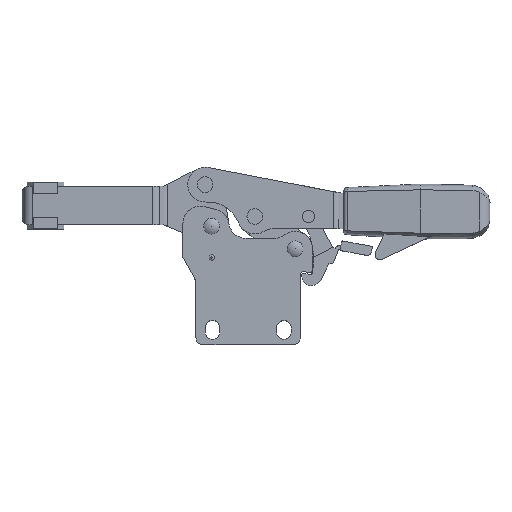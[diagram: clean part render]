
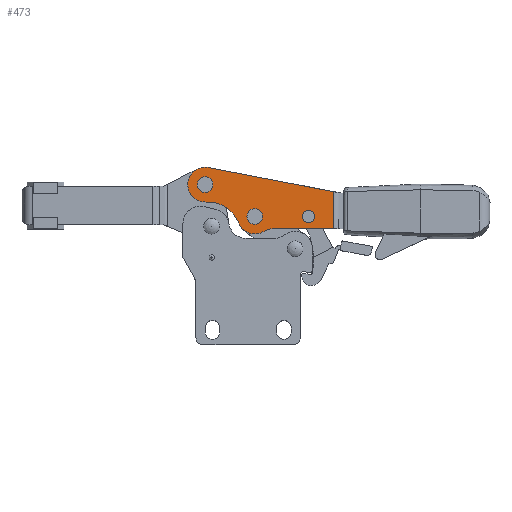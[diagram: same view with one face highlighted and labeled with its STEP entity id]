
A CAD part, top view. The second image highlights one B-rep face of the part: STEP entity #473.
In plain terms, the highlighted planar face has unit normal (0, 0, 1).
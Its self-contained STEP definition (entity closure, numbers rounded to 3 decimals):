
#473 = ADVANCED_FACE( '', ( #914, #915, #916, #917 ), #918, .T. );
#914 = FACE_OUTER_BOUND( '', #1584, .T. );
#915 = FACE_BOUND( '', #1585, .T. );
#916 = FACE_BOUND( '', #1586, .T. );
#917 = FACE_BOUND( '', #1587, .T. );
#918 = PLANE( '', #1588 );
#1584 = EDGE_LOOP( '', ( #2980, #2981, #2982, #2983, #2984, #2985, #2986 ) );
#1585 = EDGE_LOOP( '', ( #2987 ) );
#1586 = EDGE_LOOP( '', ( #2988 ) );
#1587 = EDGE_LOOP( '', ( #2989 ) );
#1588 = AXIS2_PLACEMENT_3D( '', #2990, #2991, #2992 );
#2980 = ORIENTED_EDGE( '', *, *, #4211, .F. );
#2981 = ORIENTED_EDGE( '', *, *, #4212, .T. );
#2982 = ORIENTED_EDGE( '', *, *, #4195, .T. );
#2983 = ORIENTED_EDGE( '', *, *, #4198, .F. );
#2984 = ORIENTED_EDGE( '', *, *, #4201, .T. );
#2985 = ORIENTED_EDGE( '', *, *, #4204, .F. );
#2986 = ORIENTED_EDGE( '', *, *, #4213, .T. );
#2987 = ORIENTED_EDGE( '', *, *, #4210, .F. );
#2988 = ORIENTED_EDGE( '', *, *, #4208, .F. );
#2989 = ORIENTED_EDGE( '', *, *, #4206, .F. );
#2990 = CARTESIAN_POINT( '', ( -3.783, 23.882, 7. ) );
#2991 = DIRECTION( '', ( 0., 0., 1. ) );
#2992 = DIRECTION( '', ( 1., 0., 0. ) );
#4195 = EDGE_CURVE( '', #5060, #5065, #5067, .T. );
#4198 = EDGE_CURVE( '', #5070, #5065, #5072, .T. );
#4201 = EDGE_CURVE( '', #5070, #5075, #5077, .T. );
#4204 = EDGE_CURVE( '', #5080, #5075, #5082, .T. );
#4206 = EDGE_CURVE( '', #5085, #5085, #5086, .T. );
#4208 = EDGE_CURVE( '', #5089, #5089, #5090, .T. );
#4210 = EDGE_CURVE( '', #5093, #5093, #5094, .T. );
#4211 = EDGE_CURVE( '', #5095, #5096, #5097, .F. );
#4212 = EDGE_CURVE( '', #5095, #5060, #5098, .T. );
#4213 = EDGE_CURVE( '', #5080, #5096, #5099, .T. );
#5060 = VERTEX_POINT( '', #6524 );
#5065 = VERTEX_POINT( '', #6530 );
#5067 = CIRCLE( '', #6533, 10. );
#5070 = VERTEX_POINT( '', #6536 );
#5072 = CIRCLE( '', #6539, 19. );
#5075 = VERTEX_POINT( '', #6542 );
#5077 = CIRCLE( '', #6545, 10. );
#5080 = VERTEX_POINT( '', #6548 );
#5082 = CIRCLE( '', #6551, 10. );
#5085 = VERTEX_POINT( '', #6554 );
#5086 = CIRCLE( '', #6555, 3.5 );
#5089 = VERTEX_POINT( '', #6558 );
#5090 = CIRCLE( '', #6559, 4.5 );
#5093 = VERTEX_POINT( '', #6562 );
#5094 = CIRCLE( '', #6563, 4.5 );
#5095 = VERTEX_POINT( '', #6564 );
#5096 = VERTEX_POINT( '', #6565 );
#5097 = LINE( '', #6566, #6567 );
#5098 = LINE( '', #6568, #6569 );
#5099 = LINE( '', #6570, #6571 );
#6524 = CARTESIAN_POINT( '', ( -1.894, 33.702, 7. ) );
#6530 = CARTESIAN_POINT( '', ( -3.233, 13.897, 7. ) );
#6533 = AXIS2_PLACEMENT_3D( '', #7791, #7792, #7793 );
#6536 = CARTESIAN_POINT( '', ( 15.494, 1.882, 7. ) );
#6539 = AXIS2_PLACEMENT_3D( '', #7798, #7799, #7800 );
#6542 = CARTESIAN_POINT( '', ( 30.126, -2.921, 7. ) );
#6545 = AXIS2_PLACEMENT_3D( '', #7805, #7806, #7807 );
#6548 = CARTESIAN_POINT( '', ( 35.502, -1.384, 7. ) );
#6551 = AXIS2_PLACEMENT_3D( '', #7812, #7813, #7814 );
#6554 = CARTESIAN_POINT( '', ( 59.248, 5.515, 7. ) );
#6555 = AXIS2_PLACEMENT_3D( '', #7818, #7819, #7820 );
#6558 = CARTESIAN_POINT( '', ( 29.3, 5.543, 7. ) );
#6559 = AXIS2_PLACEMENT_3D( '', #7824, #7825, #7826 );
#6562 = CARTESIAN_POINT( '', ( 0.717, 23.882, 7. ) );
#6563 = AXIS2_PLACEMENT_3D( '', #7830, #7831, #7832 );
#6564 = CARTESIAN_POINT( '', ( 70.273, 19.82, 7. ) );
#6565 = CARTESIAN_POINT( '', ( 70.166, -1.558, 7. ) );
#6566 = CARTESIAN_POINT( '', ( 69.966, -41.557, 7. ) );
#6567 = VECTOR( '', #7833, 1000. );
#6568 = CARTESIAN_POINT( '', ( 76.025, 18.713, 7. ) );
#6569 = VECTOR( '', #7834, 1000. );
#6570 = CARTESIAN_POINT( '', ( 35.502, -1.384, 7. ) );
#6571 = VECTOR( '', #7835, 1000. );
#7791 = CARTESIAN_POINT( '', ( -3.783, 23.882, 7. ) );
#7792 = DIRECTION( '', ( 0., 0., 1. ) );
#7793 = DIRECTION( '', ( 1., 0., 0. ) );
#7798 = CARTESIAN_POINT( '', ( -2.187, -5.074, 7. ) );
#7799 = DIRECTION( '', ( 0., 0., 1. ) );
#7800 = DIRECTION( '', ( 1., 0., 0. ) );
#7805 = CARTESIAN_POINT( '', ( 24.8, 5.543, 7. ) );
#7806 = DIRECTION( '', ( 0., 0., 1. ) );
#7807 = DIRECTION( '', ( 1., 0., 0. ) );
#7812 = CARTESIAN_POINT( '', ( 35.452, -11.384, 7. ) );
#7813 = DIRECTION( '', ( 0., 0., 1. ) );
#7814 = DIRECTION( '', ( 1., 0., 0. ) );
#7818 = CARTESIAN_POINT( '', ( 55.748, 5.515, 7. ) );
#7819 = DIRECTION( '', ( 0., 0., 1. ) );
#7820 = DIRECTION( '', ( 1., 0., 0. ) );
#7824 = CARTESIAN_POINT( '', ( 24.8, 5.543, 7. ) );
#7825 = DIRECTION( '', ( 0., 0., 1. ) );
#7826 = DIRECTION( '', ( 1., 0., 0. ) );
#7830 = CARTESIAN_POINT( '', ( -3.783, 23.882, 7. ) );
#7831 = DIRECTION( '', ( 0., 0., 1. ) );
#7832 = DIRECTION( '', ( 1., 0., 0. ) );
#7833 = DIRECTION( '', ( 0.005, 1., 0. ) );
#7834 = DIRECTION( '', ( -0.982, 0.189, 0. ) );
#7835 = DIRECTION( '', ( 1., -0.005, 0. ) );
